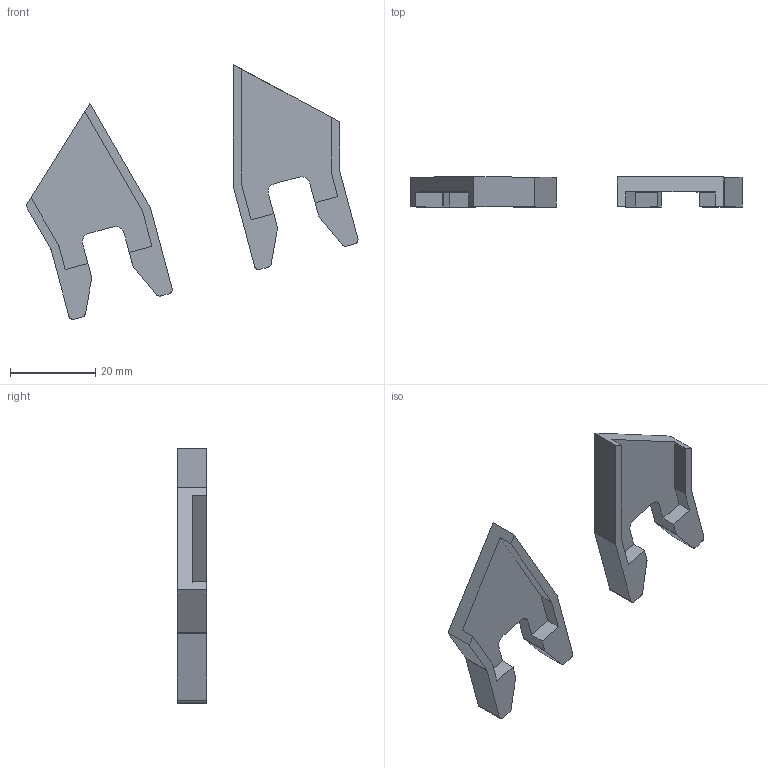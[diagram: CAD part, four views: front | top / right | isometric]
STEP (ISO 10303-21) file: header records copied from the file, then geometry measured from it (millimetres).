
FILE_DESCRIPTION (( 'STEP AP203' ), '1' );
FILE_NAME ('E46 CORNER LIGHT TABS CRACKED.STEP', '2025-12-16T02:22:03', ( '' ), ( '' ), 'SwSTEP 2.0', 'SolidWorks 2026', '' );
FILE_SCHEMA (( 'CONFIG_CONTROL_DESIGN' ));
Length unit declared in the file: millimetre
Products named in the file (1): E46 CORNER LIGHT TABS CRACKED
Bounding box: 77.68 x 7 x 59.58 mm (x, y, z)
Volume: 7058.3 mm3; surface area: 5391.5 mm2
Topology: 2 solids, 2 shells, 70 faces, 198 edges, 132 vertices
Faces by surface type: plane 44, cylinder 26
Entity records: 2349 total; most frequent: CARTESIAN_POINT 401, ORIENTED_EDGE 396, DIRECTION 392, EDGE_CURVE 198, LINE 146, VECTOR 146, VERTEX_POINT 132, AXIS2_PLACEMENT_3D 123
